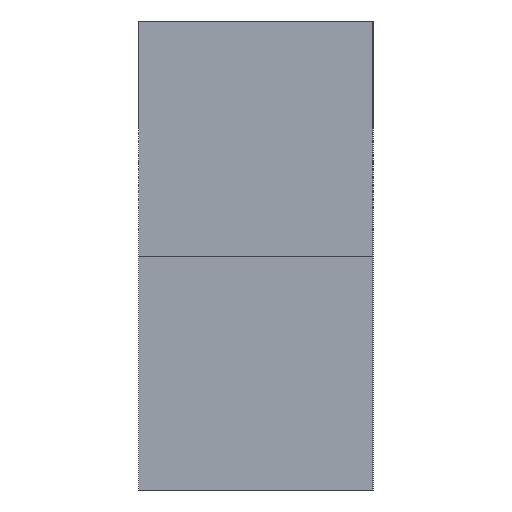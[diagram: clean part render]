
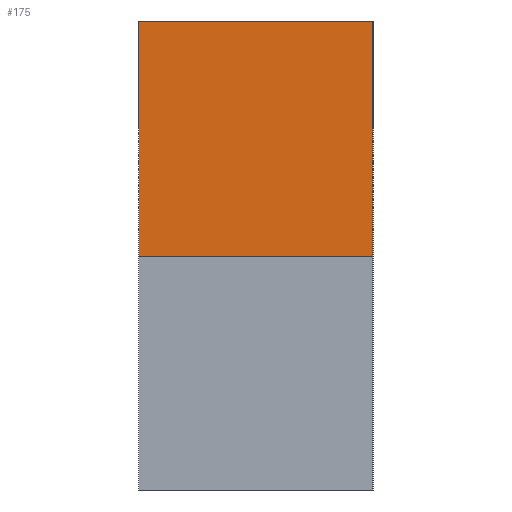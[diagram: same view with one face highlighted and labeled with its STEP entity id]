
A CAD part, left-side view. The second image highlights one B-rep face of the part: STEP entity #175.
In plain terms, the highlighted planar face has unit normal (-1, 0, 0).
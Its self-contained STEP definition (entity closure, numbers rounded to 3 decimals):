
#43 = EDGE_CURVE('',#44,#46,#48,.T.);
#44 = VERTEX_POINT('',#45);
#45 = CARTESIAN_POINT('',(-217.,-10.,-10.));
#46 = VERTEX_POINT('',#47);
#47 = CARTESIAN_POINT('',(-217.,10.,-10.));
#48 = LINE('',#49,#50);
#49 = CARTESIAN_POINT('',(-217.,10.,-10.));
#50 = VECTOR('',#51,1.);
#51 = DIRECTION('',(-0.,1.,0.));
#83 = EDGE_CURVE('',#46,#84,#86,.T.);
#84 = VERTEX_POINT('',#85);
#85 = CARTESIAN_POINT('',(-217.,10.,10.));
#86 = LINE('',#87,#88);
#87 = CARTESIAN_POINT('',(-217.,10.,10.));
#88 = VECTOR('',#89,1.);
#89 = DIRECTION('',(-0.,-0.,1.));
#114 = EDGE_CURVE('',#84,#115,#117,.T.);
#115 = VERTEX_POINT('',#116);
#116 = CARTESIAN_POINT('',(-217.,-10.,10.));
#117 = LINE('',#118,#119);
#118 = CARTESIAN_POINT('',(-217.,10.,10.));
#119 = VECTOR('',#120,1.);
#120 = DIRECTION('',(0.,-1.,0.));
#145 = EDGE_CURVE('',#115,#44,#146,.T.);
#146 = LINE('',#147,#148);
#147 = CARTESIAN_POINT('',(-217.,-10.,10.));
#148 = VECTOR('',#149,1.);
#149 = DIRECTION('',(0.,0.,-1.));
#175 = ADVANCED_FACE('',(#176),#182,.F.);
#176 = FACE_BOUND('',#177,.T.);
#177 = EDGE_LOOP('',(#178,#179,#180,#181));
#178 = ORIENTED_EDGE('',*,*,#43,.F.);
#179 = ORIENTED_EDGE('',*,*,#145,.F.);
#180 = ORIENTED_EDGE('',*,*,#114,.F.);
#181 = ORIENTED_EDGE('',*,*,#83,.F.);
#182 = PLANE('',#183);
#183 = AXIS2_PLACEMENT_3D('',#184,#185,#186);
#184 = CARTESIAN_POINT('',(-217.,0.,0.));
#185 = DIRECTION('',(1.,0.,0.));
#186 = DIRECTION('',(0.,0.,-1.));
